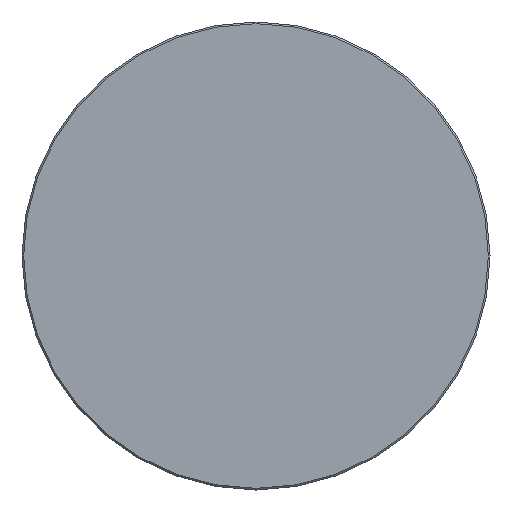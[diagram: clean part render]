
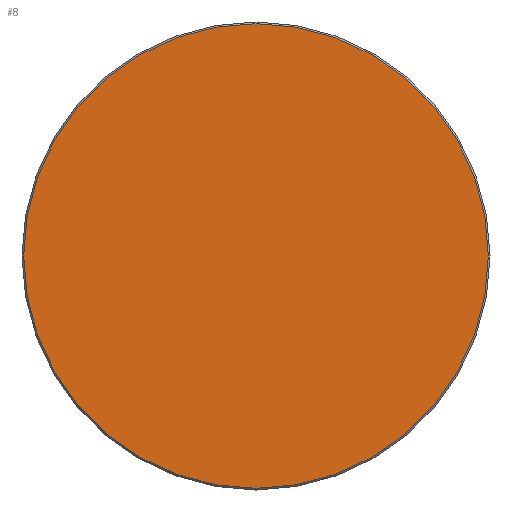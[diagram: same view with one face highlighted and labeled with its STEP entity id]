
A CAD part, left-side view. The second image highlights one B-rep face of the part: STEP entity #8.
In plain terms, the highlighted planar face has unit normal (-1, 0, 0).
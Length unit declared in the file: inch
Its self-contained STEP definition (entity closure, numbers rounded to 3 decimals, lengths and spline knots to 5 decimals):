
#8 = ADVANCED_FACE ( 'NONE', ( #80 ), #136, .T. ) ;
#12 = ORIENTED_EDGE ( 'NONE', *, *, #21, .T. ) ;
#15 = AXIS2_PLACEMENT_3D ( 'NONE', #28, #272, #329 ) ;
#21 = EDGE_CURVE ( 'NONE', #160, #334, #292, .T. ) ;
#28 = CARTESIAN_POINT ( 'NONE',  ( 0., 0., 0. ) ) ;
#45 = CARTESIAN_POINT ( 'NONE',  ( 0., 0., 0. ) ) ;
#52 = DIRECTION ( 'NONE',  ( -1., 0., 0. ) ) ;
#54 = CARTESIAN_POINT ( 'NONE',  ( 0., 0.5585, 0. ) ) ;
#80 = FACE_OUTER_BOUND ( 'NONE', #215, .T. ) ;
#111 = AXIS2_PLACEMENT_3D ( 'NONE', #45, #167, #261 ) ;
#136 = PLANE ( 'NONE',  #111 ) ;
#140 = CIRCLE ( 'NONE', #15, 0.5585 ) ;
#141 = ORIENTED_EDGE ( 'NONE', *, *, #315, .T. ) ;
#160 = VERTEX_POINT ( 'NONE', #54 ) ;
#167 = DIRECTION ( 'NONE',  ( -1., 0., 0. ) ) ;
#212 = CARTESIAN_POINT ( 'NONE',  ( 0., -0.5585, 0. ) ) ;
#215 = EDGE_LOOP ( 'NONE', ( #12, #141 ) ) ;
#232 = DIRECTION ( 'NONE',  ( 0., -1., 0. ) ) ;
#261 = DIRECTION ( 'NONE',  ( 0., -1., 0. ) ) ;
#272 = DIRECTION ( 'NONE',  ( -1., 0., 0. ) ) ;
#292 = CIRCLE ( 'NONE', #370, 0.5585 ) ;
#315 = EDGE_CURVE ( 'NONE', #334, #160, #140, .T. ) ;
#329 = DIRECTION ( 'NONE',  ( 0., -1., 0. ) ) ;
#334 = VERTEX_POINT ( 'NONE', #212 ) ;
#370 = AXIS2_PLACEMENT_3D ( 'NONE', #377, #52, #232 ) ;
#377 = CARTESIAN_POINT ( 'NONE',  ( 0., 0., 0. ) ) ;
